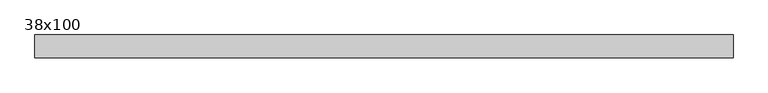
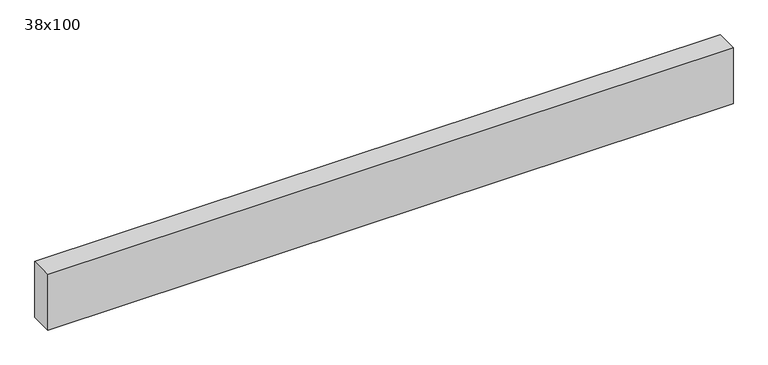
"""IFC4 building model written with IfcOpenShell, lengths in millimetres: beam geometry, Poutre - Bois de construction de dimensions courantes : 38x100."""

from ifc_helpers import new_model, si_unit, frame, origin, place, context, project, spatial, polyline, outline, extrude, source, transform, mapped, element, save


def beam_38x100_12daa25b(model_context):
    return source(origin(), model_context, "Body", "SweptSolid", [
        extrude(outline(polyline([(580.5, 19.05), (580.5, -19.05), (-580.5, -19.05), (-580.5, 19.05), (580.5, 19.05)])), frame((0.0, 0.0, -50.0), z_axis=(0.0, 0.0, 1.0), x_axis=(1.0, 0.0, 0.0)), (0.0, 0.0, 1.0), 100.0),
    ])


if __name__ == "__main__":
    model = new_model("IFC4")
    model_context = context("Model", 3, world=origin())
    ifc_project = project(units=[si_unit("LENGTHUNIT", "METRE", prefix="MILLI")], contexts=[model_context])
    site = spatial("IfcSite", under=ifc_project)
    building = spatial("IfcBuilding", under=site)
    placement = place(None, origin())
    beam_38x100_shape = beam_38x100_12daa25b(model_context)
    element("IfcBeam", 1, ObjectType="Poutre - Bois de construction de dimensions courantes : 38x100", at=placement, inside=building, context=model_context, shape_type="MappedRepresentation", body=[
        mapped(beam_38x100_shape, transform((0.0, 0.0, 0.0), x_axis=(1.0, 0.0, 0.0), y_axis=(0.0, 1.0, 0.0), z_axis=(0.0, 0.0, 1.0))),
    ])
    save(model, "model.ifc")
